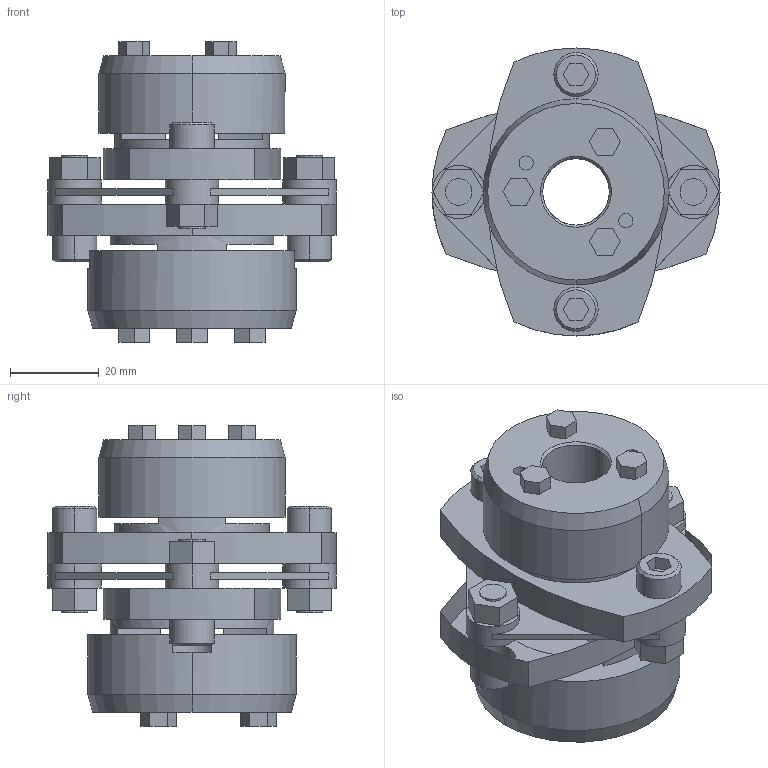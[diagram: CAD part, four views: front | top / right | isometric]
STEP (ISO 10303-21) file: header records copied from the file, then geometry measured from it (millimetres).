
FILE_DESCRIPTION((''),'2;1');
FILE_NAME('LCS-65T7-14×17.stp','2015-10-28T08:46:30',(''),(''),'AutoCAD STEP 2000i','AutoCAD 2000i',', , ');
FILE_SCHEMA(('CONFIG_CONTROL_DESIGN'));
Length unit declared in the file: millimetre
Products named in the file (8): LCS-65T7-14×17; 忣兜1; LC65T7-T017; LC65T7-T015; LC65T7-T014-1; LC65T7-T014; LC65T7-T015-1; LCS65-ITA
Assembly tree (8 placements, depth 2):
  LCS-65T7-14×17
    忣兜1
    LC65T7-T017
    LC65T7-T015  x2
    LC65T7-T014-1
    LC65T7-T014
    LC65T7-T015-1
    LCS65-ITA
Bounding box: 65 x 65 x 67.9 mm (x, y, z)
Volume: 87909.4 mm3; surface area: 29158.5 mm2
Topology: 1 solids, 1 shells, 224 faces, 589 edges, 401 vertices
Faces by surface type: plane 134, cylinder 70, cone 20
Entity records: 7147 total; most frequent: DIRECTION 1260, CARTESIAN_POINT 1209, ORIENTED_EDGE 1150, EDGE_CURVE 575, AXIS2_PLACEMENT_3D 438, VECTOR 384, LINE 384, VERTEX_POINT 375
